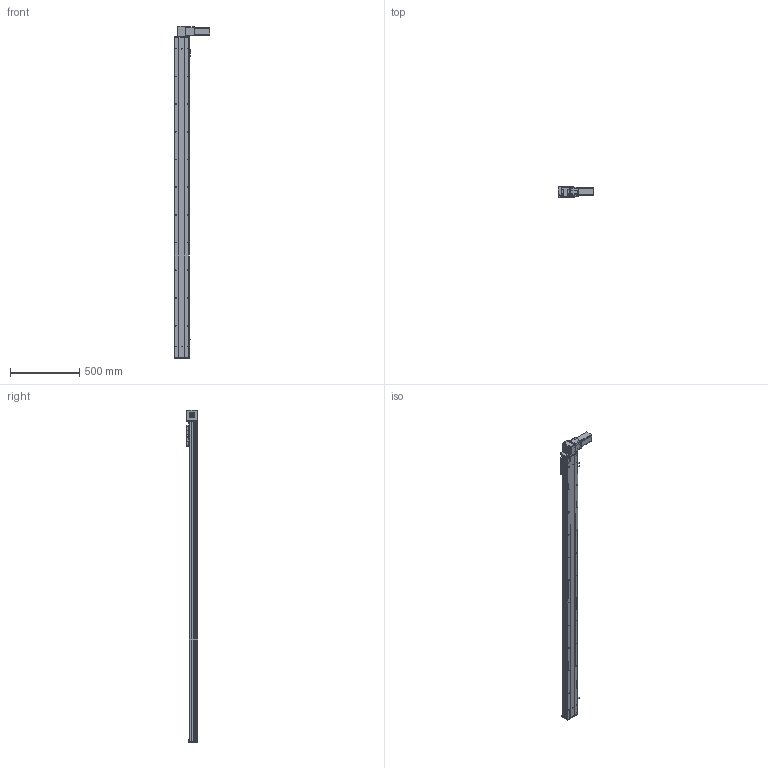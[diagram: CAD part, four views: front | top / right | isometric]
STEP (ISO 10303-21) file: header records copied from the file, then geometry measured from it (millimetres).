
FILE_DESCRIPTION (( 'STEP AP203' ), '1' );
FILE_NAME ('Y10CB-D90-S2050-BD-P400W.STEP', '2020-02-17T02:55:10', ( '微软用户' ), ( '微软中国' ), 'SwSTEP 2.0', 'SolidWorks 2017', '' );
FILE_SCHEMA (( 'CONFIG_CONTROL_DESIGN' ));
Length unit declared in the file: millimetre
Products named in the file (16): 10CB9-掛极; 0Cb-俋欶---; 10CB-耜裔; Y10B-々湍喘謫眊楊擘啣--; Y135C-陔俋离換覜結え-; san松下电机400不带刹车----; Y100-135俋离換覜ん--; 0B-源倛裔啣; Y10B--々湍喘謫眊--666; 0B-埴倛裔啣; 0B-薊粣ん眊; 10CB-詩湍-; Y10CB-D90-S2050-BD-P400W; Y10CB- 掛极耜裔啣-毀---; Y10C---詩湍揤啣; 0CB-雄赽釱---
Assembly tree (19 placements, depth 2):
  Y10CB-D90-S2050-BD-P400W
    0CB-雄赽釱---
    0Cb-俋欶---
    Y10B-々湍喘謫眊楊擘啣--
    san松下电机400不带刹车----
    0B-源倛裔啣
    0B-埴倛裔啣
    10CB-詩湍-
    Y10CB- 掛极耜裔啣-毀---  x2
    Y10C---詩湍揤啣  x2
    10CB9-掛极
    10CB-耜裔
    Y135C-陔俋离換覜結え-
    Y100-135俋离換覜ん--  x3
    Y10B--々湍喘謫眊--666
    0B-薊粣ん眊
Bounding box: 258 x 80.5 x 2396 mm (x, y, z)
Volume: 4968533.8 mm3; surface area: 2292180.7 mm2
Topology: 19 solids, 19 shells, 960 faces, 2582 edges, 1676 vertices
Faces by surface type: cylinder 490, plane 446, cone 24
Entity records: 30069 total; most frequent: CARTESIAN_POINT 5644, DIRECTION 4797, ORIENTED_EDGE 4634, EDGE_CURVE 2317, AXIS2_PLACEMENT_3D 1719, VERTEX_POINT 1502, VECTOR 1359, LINE 1359
